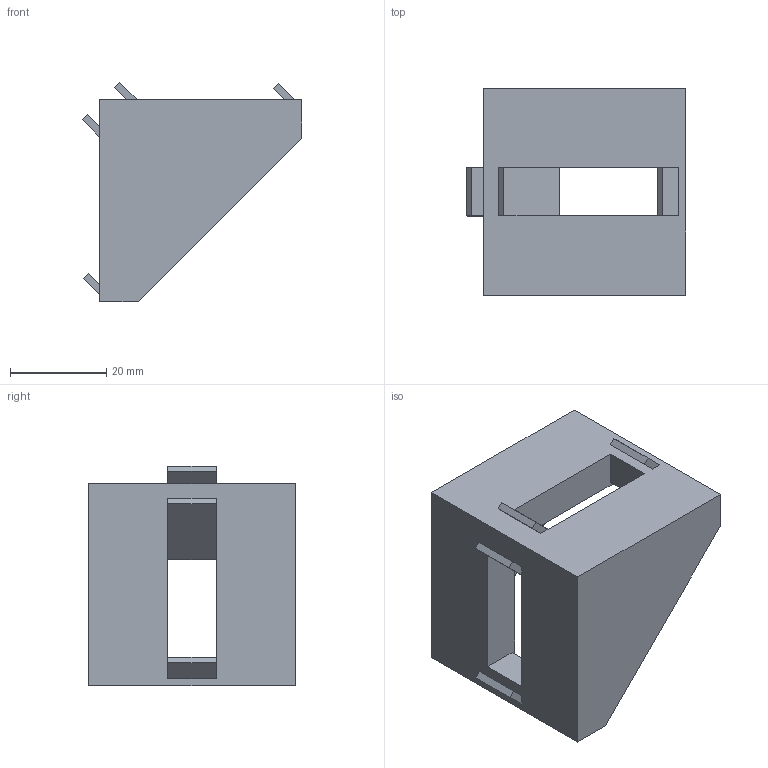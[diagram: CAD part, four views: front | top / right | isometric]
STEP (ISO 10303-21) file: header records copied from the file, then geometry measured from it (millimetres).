
FILE_DESCRIPTION((''),'2;1');
FILE_NAME('SQ042042','2002-12-27T',('Lipro doo'),('Lipro d.o.o.'),'PRO/ENGINEER BY PARAMETRIC TECHNOLOGY CORPORATION, 2001150','PRO/ENGINEER BY PARAMETRIC TECHNOLOGY CORPORATION, 2001150','');
FILE_SCHEMA(('CONFIG_CONTROL_DESIGN'));
Length unit declared in the file: millimetre
Products named in the file (1): SQ042042
Bounding box: 45.64 x 43 x 45.64 mm (x, y, z)
Volume: 27124.8 mm3; surface area: 11141.9 mm2
Topology: 1 solids, 1 shells, 40 faces, 100 edges, 64 vertices
Faces by surface type: plane 40
Entity records: 1206 total; most frequent: CARTESIAN_POINT 204, ORIENTED_EDGE 200, DIRECTION 180, VECTOR 100, LINE 100, EDGE_CURVE 100, VERTEX_POINT 64, EDGE_LOOP 46
